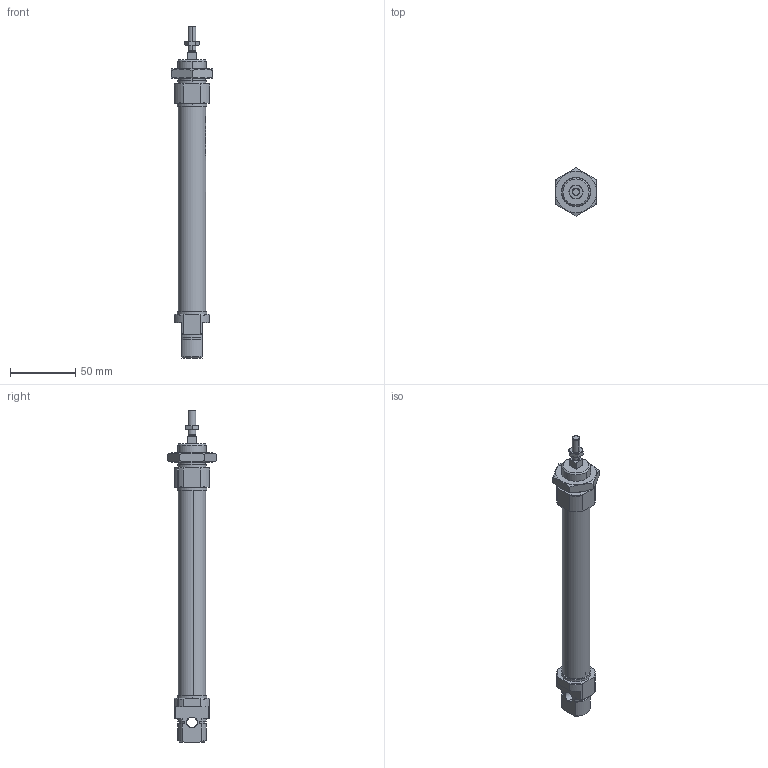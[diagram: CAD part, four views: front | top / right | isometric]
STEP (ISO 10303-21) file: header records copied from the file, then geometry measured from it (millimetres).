
FILE_DESCRIPTION (( 'STEP AP214' ), '1' );
FILE_NAME ('WSSC-HR-020-0125 (3D).STEP', '2019-07-02T09:15:34', ( '' ), ( '' ), 'SwSTEP 2.0', 'SolidWorks 2016', '' );
FILE_SCHEMA (( 'AUTOMOTIVE_DESIGN' ));
Length unit declared in the file: millimetre
Products named in the file (5): Group3^WSSC-HR-020-0125 (3D); Group1^WSSC-HR-020-0125 (3D); Group4^WSSC-HR-020-0125 (3D); WSSC-HR-020-0125 (3D); Group2^WSSC-HR-020-0125 (3D)
Assembly tree (4 placements, depth 2):
  WSSC-HR-020-0125 (3D)
    Group1^WSSC-HR-020-0125 (3D)
    Group2^WSSC-HR-020-0125 (3D)
    Group3^WSSC-HR-020-0125 (3D)
    Group4^WSSC-HR-020-0125 (3D)
Bounding box: 32 x 36.95 x 255 mm (x, y, z)
Volume: 59299.1 mm3; surface area: 39904.5 mm2
Topology: 6 solids, 6 shells, 489 faces, 1297 edges, 852 vertices
Faces by surface type: plane 246, bspline 115, cylinder 66, cone 62
Entity records: 22154 total; most frequent: CARTESIAN_POINT 9970, ORIENTED_EDGE 2594, DIRECTION 1871, EDGE_CURVE 1297, VERTEX_POINT 852, VECTOR 701, LINE 701, AXIS2_PLACEMENT_3D 585
